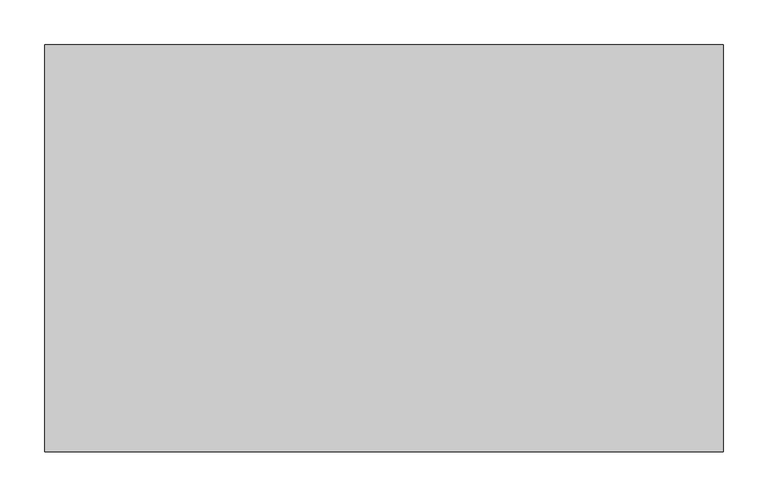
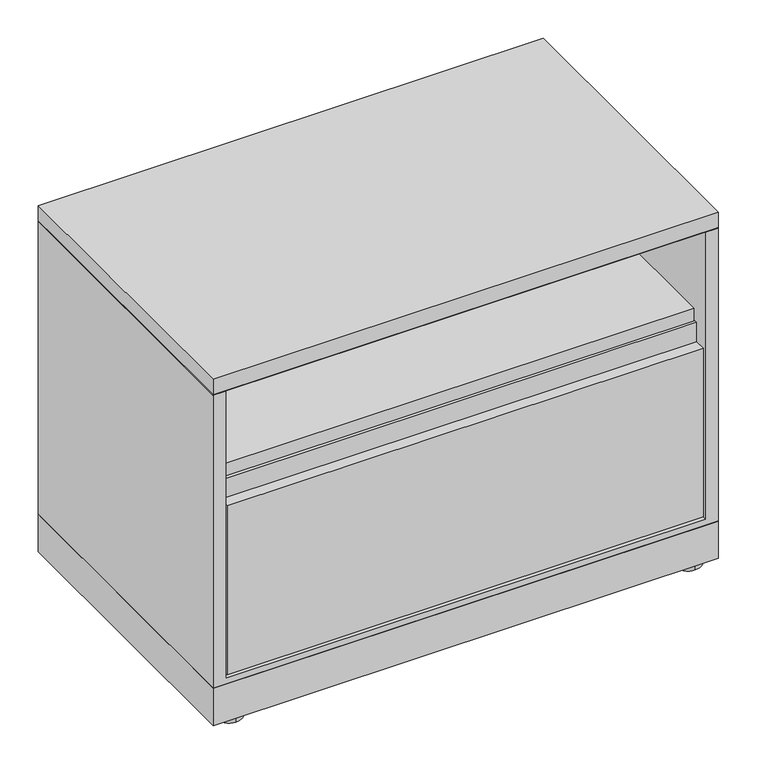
"""IFC4 building model written with IfcOpenShell, lengths in millimetres: furniture geometry, Steelcase - Universal Storage - Lateral File - 1.5 High - Flush Steel : Open/Drawer - 18D x 30W."""

import ifcopenshell
import ifcopenshell.guid

model = None  # the IFC model being written
_history = None  # IfcOwnerHistory: only IFC2X3 demands one
_inside = {}  # id of a spatial element -> (the spatial element, [elements in it])
_under = {}  # id of a project, library or spatial element -> (it, [spatial elements below it])
_declared = {}  # id of a project -> (the project, [libraries it declares])
_typed = {}  # id of a type object -> (the type object, [elements of that type])
_made_of = {}  # id of a material, layer set ... -> (it, [elements and type objects made of it])


def new_model(schema):
    """Start an empty IFC model of exactly this schema.

    Asked for "IFC4X3", IfcOpenShell would pick the latest addendum, in which some entities
    have other attributes; the version numbers below select the first issue.
    IFC2X3 requires an IfcOwnerHistory on every rooted entity: one is made here for all.
    """
    global model, _history
    if schema == "IFC4X3":
        model = ifcopenshell.file(schema_version=(4, 3, 0, 0))
    else:
        model = ifcopenshell.file(schema=schema)
    _inside.clear()
    _under.clear()
    _declared.clear()
    _typed.clear()
    _made_of.clear()
    _history = None
    if model.schema == "IFC2X3":
        org = make("IfcOrganization", Name="unknown")
        user = make(
            "IfcPersonAndOrganization",
            ThePerson=make("IfcPerson", FamilyName="unknown"),
            TheOrganization=org,
        )
        app = make(
            "IfcApplication",
            ApplicationDeveloper=org,
            Version="unknown",
            ApplicationFullName="unknown",
            ApplicationIdentifier="unknown",
        )
        _history = make(
            "IfcOwnerHistory",
            OwningUser=user,
            OwningApplication=app,
            ChangeAction="ADDED",
            CreationDate=0,
        )
    return model


def make(cls, **values):
    """One entity of the class cls with the attributes given. An attribute that is None is left unset."""
    return model.create_entity(
        cls, **{name: value for name, value in values.items() if value is not None}
    )


def rooted(cls, **values):
    """An entity with a GlobalId (a new one), such as an element, a storey or a relation."""
    return make(cls, GlobalId=ifcopenshell.guid.new(), OwnerHistory=_history, **values)


def si_unit(unit_type, name, prefix=None):
    """IfcSIUnit, for example si_unit("LENGTHUNIT", "METRE", prefix="MILLI")."""
    return make("IfcSIUnit", UnitType=unit_type, Prefix=prefix, Name=name)


def assignment(units):
    """IfcUnitAssignment: the units of a project."""
    return None if units is None else make("IfcUnitAssignment", Units=units)


def point(xyz):
    """IfcCartesianPoint."""
    return None if xyz is None else make("IfcCartesianPoint", Coordinates=xyz)


def direction(xyz):
    """IfcDirection."""
    return None if xyz is None else make("IfcDirection", DirectionRatios=xyz)


def frame(location, z_axis=None, x_axis=None):
    """IfcAxis2Placement3D, a coordinate frame: its origin and axes. An axis left out is left unset."""
    return make(
        "IfcAxis2Placement3D",
        Location=point(location),
        Axis=direction(z_axis),
        RefDirection=direction(x_axis),
    )


def frame_2d(location, x_axis=None):
    """IfcAxis2Placement2D, a coordinate frame in the plane: its origin and x axis."""
    return make(
        "IfcAxis2Placement2D", Location=point(location), RefDirection=direction(x_axis)
    )


def origin():
    """The frame at (0, 0, 0) with its axes left unset."""
    return frame((0.0, 0.0, 0.0))


def origin_with_axes():
    """The frame at (0, 0, 0) with the z axis (0, 0, 1) and the x axis (1, 0, 0) written out."""
    return frame((0.0, 0.0, 0.0), z_axis=(0.0, 0.0, 1.0), x_axis=(1.0, 0.0, 0.0))


def place(relative_to, where):
    """IfcLocalPlacement: puts the frame where relative to a parent placement (None: the world)."""
    return make(
        "IfcLocalPlacement", PlacementRelTo=relative_to, RelativePlacement=where
    )


def context(
    kind, dimensions, precision=None, world=None, true_north=None, identifier=None
):
    """IfcGeometricRepresentationContext, for example the 3D "Model" context."""
    return make(
        "IfcGeometricRepresentationContext",
        ContextIdentifier=identifier,
        ContextType=kind,
        CoordinateSpaceDimension=dimensions,
        Precision=precision,
        WorldCoordinateSystem=world,
        TrueNorth=true_north,
    )


def project(units=None, contexts=None):
    """IfcProject with its units and contexts."""
    return rooted(
        "IfcProject",
        Name="project",
        RepresentationContexts=contexts,
        UnitsInContext=assignment(units),
    )


def spatial(cls, under=None, at=None, **own):
    """A site, building, storey or space (cls), placed at a placement, below another one or the project."""
    s = rooted(cls, ObjectPlacement=at, **own)
    if under is not None:
        _under.setdefault(under.id(), (under, []))[1].append(s)
    return s


def polyline(points):
    """IfcPolyline through the points."""
    return make("IfcPolyline", Points=[point(p) for p in points])


def circle_curve(where, radius):
    """IfcCircle in the frame where."""
    return make("IfcCircle", Position=where, Radius=radius)


def trimmed(basis, trim1, trim2, sense, master):
    """IfcTrimmedCurve: the piece of a basis curve between two trims."""
    return make(
        "IfcTrimmedCurve",
        BasisCurve=basis,
        Trim1=trim1,
        Trim2=trim2,
        SenseAgreement=sense,
        MasterRepresentation=master,
    )


def segment(curve, same_sense, transition):
    """IfcCompositeCurveSegment."""
    return make(
        "IfcCompositeCurveSegment",
        Transition=transition,
        SameSense=same_sense,
        ParentCurve=curve,
    )


def composite_curve(segments, self_intersect=None):
    """IfcCompositeCurve: segments joined end to end."""
    return make("IfcCompositeCurve", Segments=segments, SelfIntersect=self_intersect)


def outline(outer, holes=None, kind="AREA"):
    """IfcArbitraryClosedProfileDef: a profile drawn as a closed curve; with holes, ...WithVoids."""
    if holes is None:
        return make("IfcArbitraryClosedProfileDef", ProfileType=kind, OuterCurve=outer)
    return make(
        "IfcArbitraryProfileDefWithVoids",
        ProfileType=kind,
        OuterCurve=outer,
        InnerCurves=holes,
    )


def extrude(swept, where, along, depth):
    """IfcExtrudedAreaSolid: the profile swept, set in the frame where, extruded along a direction by depth."""
    return make(
        "IfcExtrudedAreaSolid",
        SweptArea=swept,
        Position=where,
        ExtrudedDirection=direction(along),
        Depth=depth,
    )


def faces_of(points, faces, orient=None, outer=None):
    """IfcFace entities. A face is a list of loops; a loop is a list of indices into points, from 0.

    orient and outer hold one flag for each loop. By default every Orientation is true, the
    first loop of a face is its IfcFaceOuterBound and the others are IfcFaceBound.
    """
    made = []
    for i, loops in enumerate(faces):
        bounds = []
        for j, loop in enumerate(loops):
            is_outer = j == 0 if outer is None else outer[i][j]
            bounds.append(
                make(
                    "IfcFaceOuterBound" if is_outer else "IfcFaceBound",
                    Bound=make("IfcPolyLoop", Polygon=[points[k] for k in loop]),
                    Orientation=True if orient is None else orient[i][j],
                )
            )
        made.append(make("IfcFace", Bounds=bounds))
    return made


def faceted_brep(points, faces, orient=None, outer=None, voids=None):
    """IfcFacetedBrep: a solid bounded by flat faces; with voids (closed shells), ...WithVoids."""
    shared = [point(p) for p in points]
    hull = make("IfcClosedShell", CfsFaces=faces_of(shared, faces, orient, outer))
    if voids is None:
        return make("IfcFacetedBrep", Outer=hull)
    return make(
        "IfcFacetedBrepWithVoids",
        Outer=hull,
        Voids=[
            make(cls, CfsFaces=faces_of(shared, fs, o, b)) for cls, fs, o, b in voids
        ],
    )


def shape(context_of_items, identifier, shape_type, items):
    """IfcShapeRepresentation: the items that make up one representation, for example the "Body"."""
    return make(
        "IfcShapeRepresentation",
        ContextOfItems=context_of_items,
        RepresentationIdentifier=identifier,
        RepresentationType=shape_type,
        Items=items,
    )


def source(mapping_origin, context_of_items, identifier, shape_type, items):
    """IfcRepresentationMap: a shape defined once, which mapped items show again and again."""
    return make(
        "IfcRepresentationMap",
        MappingOrigin=mapping_origin,
        MappedRepresentation=shape(context_of_items, identifier, shape_type, items),
    )


def transform(
    local_origin,
    x_axis=None,
    y_axis=None,
    z_axis=None,
    scale=None,
    scale2=None,
    scale3=None,
    uniform=True,
):
    """IfcCartesianTransformationOperator3D, or its non-uniform kind. x_axis, y_axis, z_axis: its Axis1, 2, 3."""
    if uniform:
        return make(
            "IfcCartesianTransformationOperator3D",
            Axis1=direction(x_axis),
            Axis2=direction(y_axis),
            LocalOrigin=point(local_origin),
            Scale=scale,
            Axis3=direction(z_axis),
        )
    return make(
        "IfcCartesianTransformationOperator3DnonUniform",
        Axis1=direction(x_axis),
        Axis2=direction(y_axis),
        LocalOrigin=point(local_origin),
        Scale=scale,
        Axis3=direction(z_axis),
        Scale2=scale2,
        Scale3=scale3,
    )


def mapped(mapping_source, mapping_target):
    """IfcMappedItem: shows the shape of a source again, moved by a transform."""
    return make(
        "IfcMappedItem", MappingSource=mapping_source, MappingTarget=mapping_target
    )


def made_of(thing, what):
    """Note that an element or type object is made of a material, layer set ...; save() writes the relation."""
    if what is not None:
        _made_of.setdefault(what.id(), (what, []))[1].append(thing)
    return thing


def element(
    cls,
    number,
    at=None,
    inside=None,
    cuts=None,
    type_object=None,
    material=None,
    context=None,
    identifier="Body",
    shape_type=None,
    held_by="IfcProductDefinitionShape",
    body=None,
    shapes=None,
    **own,
):
    """One element of the class cls, such as IfcWall. Its Tag is "e" and its number.

    at: its placement. inside: the storey or other place that contains it. cuts: it is an
    opening in that element (IfcRelVoidsElement). A single representation is given by context,
    identifier, shape_type and body (its items); several are given by shapes. held_by: the class
    of the entity that holds the representations. save() writes the other relations.
    """
    e = rooted(cls, Tag="e%d" % number, ObjectPlacement=at, **own)
    if body is not None:
        shapes = [shape(context, identifier, shape_type, body)]
    if shapes is not None:
        e.Representation = make(held_by, Representations=shapes)
    if inside is not None:
        _inside.setdefault(inside.id(), (inside, []))[1].append(e)
    if cuts is not None:
        rooted(
            "IfcRelVoidsElement", RelatingBuildingElement=cuts, RelatedOpeningElement=e
        )
    if type_object is not None:
        _typed.setdefault(type_object.id(), (type_object, []))[1].append(e)
    return made_of(e, material)


def aggregate(whole, parts):
    """IfcRelAggregates: a whole, such as a stair, and the parts it consists of."""
    return rooted("IfcRelAggregates", RelatingObject=whole, RelatedObjects=parts)


def save(model, path):
    """Write the relations noted so far, then the file.

    IfcRelAggregates (storeys below a building ...), IfcRelContainedInSpatialStructure (elements
    in a storey), IfcRelDefinesByType, IfcRelAssociatesMaterial and IfcRelDeclares: one each for
    every whole, place, type object, material and project.
    """
    for whole, parts in _under.values():
        aggregate(whole, parts)
    for where, things in _inside.values():
        rooted(
            "IfcRelContainedInSpatialStructure",
            RelatedElements=things,
            RelatingStructure=where,
        )
    for kind, things in _typed.values():
        rooted("IfcRelDefinesByType", RelatedObjects=things, RelatingType=kind)
    for what, things in _made_of.values():
        rooted("IfcRelAssociatesMaterial", RelatedObjects=things, RelatingMaterial=what)
    for by, libraries in _declared.values():
        rooted("IfcRelDeclares", RelatingContext=by, RelatedDefinitions=libraries)
    model.write(path)


def furniture_e809e230(model_context):
    return source(origin(), model_context, "Body", "SolidModel", [
        extrude(outline(polyline([(762.0, 457.2), (762.0, 0.0), (0.0, 0.0), (0.0, 457.2), (762.0, 457.2)])), frame((0.0, 0.0, 6.3500002), z_axis=(0.0, 0.0, 1.0), x_axis=(1.0, 0.0, 0.0)), (0.0, 0.0, 1.0), 59.6899998),
        extrude(outline(composite_curve([segment(trimmed(circle_curve(frame_2d((727.3290058, 434.8633666)), 20.32), [point((727.3290058, 414.5433666))], [point((727.3290058, 455.1833666))], False, "CARTESIAN"), True, "CONTINUOUS"), segment(trimmed(circle_curve(frame_2d((727.3290058, 434.8633666)), 20.32), [point((727.3290058, 455.1833666))], [point((727.3290058, 414.5433666))], False, "CARTESIAN"), True, "CONTINUOUS")], self_intersect=False)), origin_with_axes(), (0.0, 0.0, 1.0), 6.3500002),
        extrude(outline(composite_curve([segment(trimmed(circle_curve(frame_2d((727.3290058, 20.7491455)), 20.32), [point((727.3290058, 0.4291455))], [point((727.3290058, 41.0691455))], False, "CARTESIAN"), True, "CONTINUOUS"), segment(trimmed(circle_curve(frame_2d((727.3290058, 20.7491455)), 20.32), [point((727.3290058, 41.0691455))], [point((727.3290058, 0.4291455))], False, "CARTESIAN"), True, "CONTINUOUS")], self_intersect=False)), origin_with_axes(), (0.0, 0.0, 1.0), 6.3500002),
        extrude(outline(composite_curve([segment(trimmed(circle_curve(frame_2d((34.29, 434.8633666)), 20.32), [point((34.29, 455.1833666))], [point((34.29, 414.5433666))], False, "CARTESIAN"), True, "CONTINUOUS"), segment(trimmed(circle_curve(frame_2d((34.29, 434.8633666)), 20.32), [point((34.29, 414.5433666))], [point((34.29, 455.1833666))], False, "CARTESIAN"), True, "CONTINUOUS")], self_intersect=False)), origin_with_axes(), (0.0, 0.0, 1.0), 6.3500002),
        extrude(outline(composite_curve([segment(trimmed(circle_curve(frame_2d((34.29, 20.7491455)), 20.32), [point((34.29, 41.0691455))], [point((34.29, 0.4291455))], False, "CARTESIAN"), True, "CONTINUOUS"), segment(trimmed(circle_curve(frame_2d((34.29, 20.7491455)), 20.32), [point((34.29, 0.4291455))], [point((34.29, 41.0691455))], False, "CARTESIAN"), True, "CONTINUOUS")], self_intersect=False)), origin_with_axes(), (0.0, 0.0, 1.0), 6.3500002),
        extrude(outline(polyline([(437.7944128, 396.7988176), (437.7944128, 410.7687861), (440.969412, 410.7687861), (440.969412, 371.5257963), (26.822418, 371.5257963), (26.822418, 396.7988176), (437.7944128, 396.7988176)])), frame((22.0472, 0.0, 0.0), z_axis=(1.0, 0.0, 0.0), x_axis=(0.0, 1.0, 0.0)), (0.0, 0.0, 1.0), 717.9056),
        extrude(outline(polyline([(1.45e-05, 534.0350121), (457.2, 534.0350121), (456.4379879, 533.273), (0.7620266, 533.273), (1.45e-05, 534.0350121)])), frame((0.0, 0.0, 0.0), z_axis=(1.0, 0.0, 0.0), x_axis=(0.0, 1.0, 0.0)), (0.0, 0.0, 1.0), 762.0),
        extrude(outline(polyline([(762.0, 457.2), (762.0, 0.0), (0.0, 0.0), (0.0, 457.2), (762.0, 457.2)])), frame((0.0, 0.0, 534.0350121), z_axis=(0.0, 0.0, 1.0), x_axis=(1.0, 0.0, 0.0)), (0.0, 0.0, 1.0), 24.6379729),
        faceted_brep([(762.0, 0.0, 66.04), (762.0, 457.2, 66.04), (762.0, 457.2, 533.273), (762.0, 0.0, 533.273), (0.0, 0.0, 533.273), (0.0, 457.2, 533.273), (0.0, 457.2, 66.04), (0.0, 0.0, 66.04), (742.95, 0.0, 533.273), (742.95, 0.0, 75.1586), (19.05, 0.0, 75.1586), (19.05, 0.0, 533.273), (19.05, 454.0249999, 533.273), (742.95, 454.0249999, 533.273), (19.05, 454.0249999, 75.1586), (742.95, 454.0249999, 75.1586)], [[[0, 1, 2, 3]], [[4, 5, 6, 7]], [[0, 3, 8, 9, 10, 11, 4, 7]], [[2, 1, 6, 5]], [[3, 2, 5, 4, 11, 12, 13, 8]], [[12, 14, 15, 13]], [[14, 12, 11, 10]], [[13, 15, 9, 8]], [[1, 0, 7, 6]], [[10, 9, 15, 14]]]),
        extrude(outline(polyline([(23.6541043, 79.2988025), (1.5178885, 79.2988025), (1.5178885, 348.1577823), (19.3741023, 348.1577823), (19.3741023, 378.7648167), (23.6541043, 378.7648167), (23.6541043, 79.2988025)])), frame((22.0472, 0.0, 0.0), z_axis=(1.0, 0.0, 0.0), x_axis=(0.0, 1.0, 0.0)), (0.0, 0.0, 1.0), 717.9056),
    ])


if __name__ == "__main__":
    model = new_model("IFC4")
    model_context = context("Model", 3, world=origin())
    ifc_project = project(units=[si_unit("LENGTHUNIT", "METRE", prefix="MILLI")], contexts=[model_context])
    site = spatial("IfcSite", under=ifc_project)
    building = spatial("IfcBuilding", under=site)
    placement = place(None, origin())
    furniture_shape = furniture_e809e230(model_context)
    element("IfcFurniture", 1, ObjectType="Steelcase - Universal Storage - Lateral File - 1.5 High - Flush Steel : Open/Drawer - 18D x 30W", at=placement, inside=building, context=model_context, shape_type="MappedRepresentation", body=[
        mapped(furniture_shape, transform((0.0, 0.0, 0.0), x_axis=(1.0, 0.0, 0.0), y_axis=(0.0, 1.0, 0.0), z_axis=(0.0, 0.0, 1.0))),
    ])
    save(model, "model.ifc")
